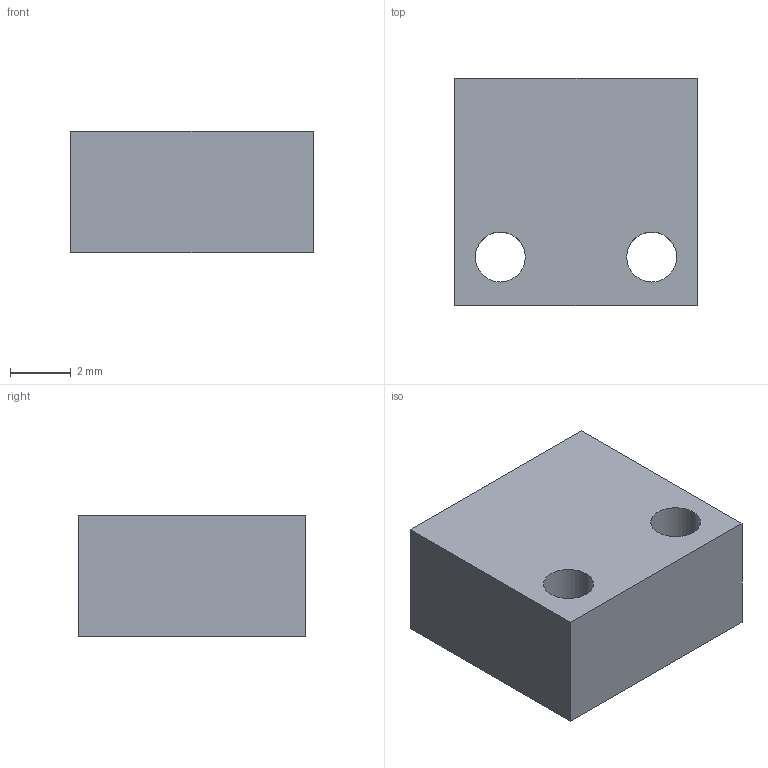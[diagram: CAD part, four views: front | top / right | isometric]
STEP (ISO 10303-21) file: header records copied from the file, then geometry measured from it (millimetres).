
FILE_DESCRIPTION (( 'STEP AP214' ), '1' );
FILE_NAME ('垫块1.STEP', '2026-09-29T00:59:23', ( '微软用户' ), ( '微软中国' ), 'SwSTEP 2.0', 'SolidWorks 2016', '' );
FILE_SCHEMA (( 'AUTOMOTIVE_DESIGN' ));
Length unit declared in the file: millimetre
Products named in the file (1): 菜輸1
Bounding box: 8 x 7.5 x 4 mm (x, y, z)
Volume: 209.4 mm3; surface area: 306.7 mm2
Topology: 1 solids, 1 shells, 20 faces, 46 edges, 27 vertices
Faces by surface type: cone 8, cylinder 6, plane 6
Entity records: 592 total; most frequent: DIRECTION 104, CARTESIAN_POINT 92, ORIENTED_EDGE 88, EDGE_CURVE 44, AXIS2_PLACEMENT_3D 39, VERTEX_POINT 27, LINE 26, VECTOR 26
